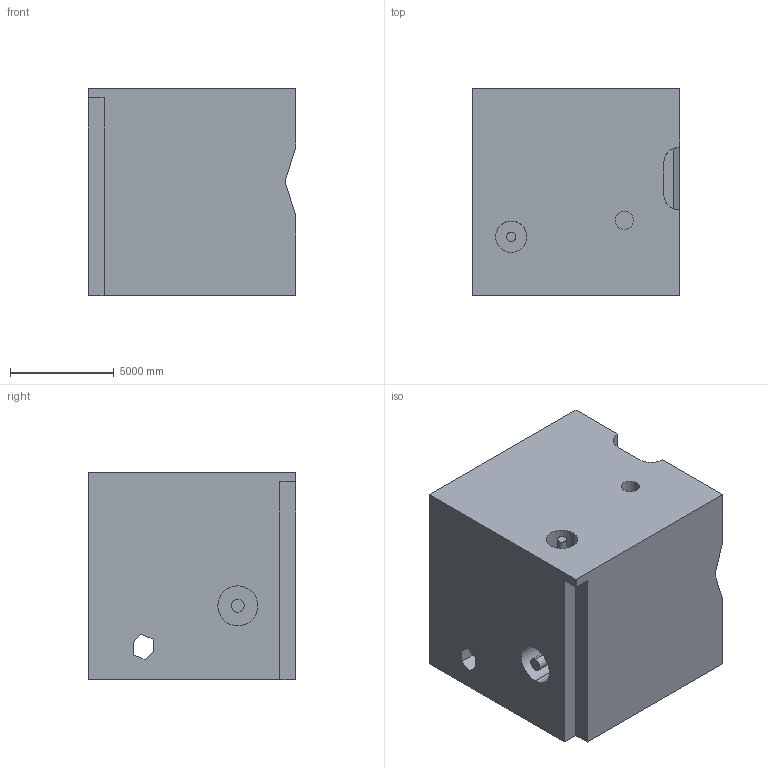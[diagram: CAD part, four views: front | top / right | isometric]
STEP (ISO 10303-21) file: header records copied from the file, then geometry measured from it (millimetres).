
FILE_DESCRIPTION (( 'STEP AP203' ), '1' );
FILE_NAME ('72.STEP', '2022-09-01T11:56:35', ( 'user' ), ( '' ), 'SwSTEP 2.0', 'SolidWorks 2021', '' );
FILE_SCHEMA (( 'CONFIG_CONTROL_DESIGN' ));
Length unit declared in the file: centimetre
Products named in the file (1): 72
Bounding box: 10000 x 10000 x 10000 mm (x, y, z)
Volume: 934963255761.4 mm3; surface area: 709053220.1 mm2
Topology: 1 solids, 1 shells, 43 faces, 107 edges, 70 vertices
Faces by surface type: plane 30, cylinder 13
Entity records: 1358 total; most frequent: CARTESIAN_POINT 227, DIRECTION 221, ORIENTED_EDGE 214, EDGE_CURVE 107, VECTOR 77, LINE 77, AXIS2_PLACEMENT_3D 72, VERTEX_POINT 70
